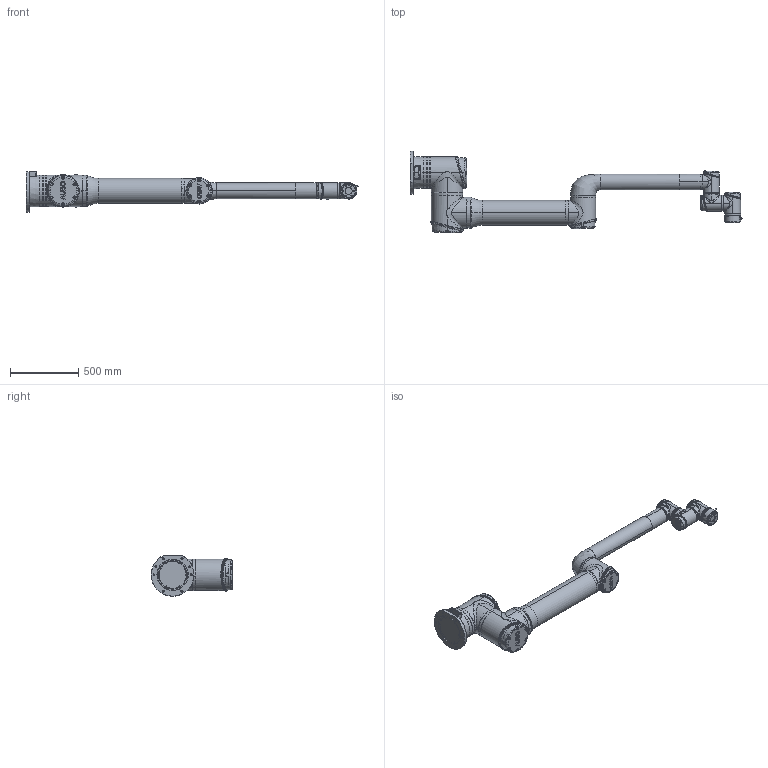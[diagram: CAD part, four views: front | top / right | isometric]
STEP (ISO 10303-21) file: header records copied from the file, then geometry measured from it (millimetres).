
FILE_DESCRIPTION (( 'STEP AP203' ), '1' );
FILE_NAME ('G35-Íâ·¢Ä£ÐÍ.STEP', '2026-04-09T01:32:03', ( '' ), ( '' ), 'SwSTEP 2.0', 'SolidWorks 2024', '' );
FILE_SCHEMA (( 'CONFIG_CONTROL_DESIGN' ));
Length unit declared in the file: millimetre
Products named in the file (7): G35-大臂管装配SLDPRT; G35-外发模型; M50N-模块V2.0外发; M25N-模块V2.0-外发; G40-基座V2.0-外发; G40-末端简化; G35-小臂管装配
Assembly tree (7 placements, depth 2):
  G35-外发模型
    G40-基座V2.0-外发
    G35-大臂管装配SLDPRT
    G35-小臂管装配
    M50N-模块V2.0外发
    M25N-模块V2.0-外发  x2
    G40-末端简化
Bounding box: 2441.07 x 599.05 x 298.5 mm (x, y, z)
Volume: 80093380.8 mm3; surface area: 3041048 mm2
Topology: 15 solids, 169 shells, 3878 faces, 9353 edges, 5872 vertices
Faces by surface type: bspline 1190, plane 813, cylinder 812, cone 684, torus 203, sphere 176
Entity records: 280145 total; most frequent: CARTESIAN_POINT 207014, ORIENTED_EDGE 17054, DIRECTION 12129, EDGE_CURVE 8527, VERTEX_POINT 5385, AXIS2_PLACEMENT_3D 5117, EDGE_LOOP 3812, ADVANCED_FACE 3602
